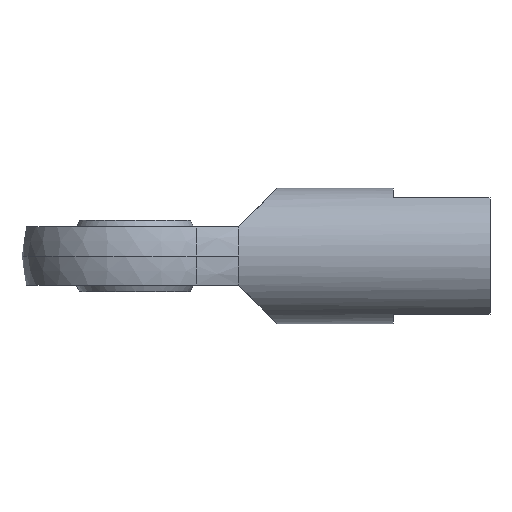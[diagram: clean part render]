
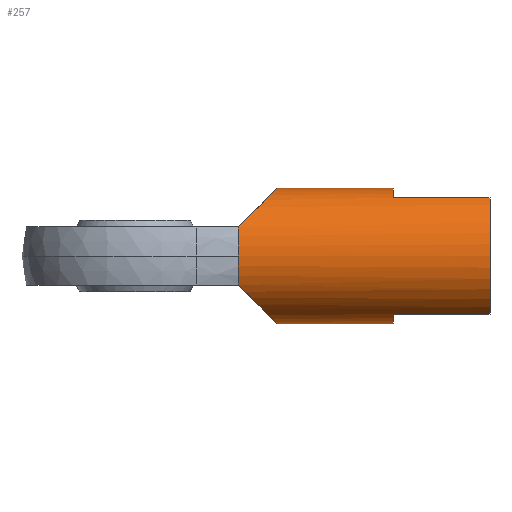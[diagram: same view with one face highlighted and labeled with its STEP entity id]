
A CAD part, front view. The second image highlights one B-rep face of the part: STEP entity #257.
In plain terms, the highlighted cylindrical face has radius 21 mm (diameter 42 mm), a partial arc.
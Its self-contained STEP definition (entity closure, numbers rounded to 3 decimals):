
#108 = VERTEX_POINT ( 'NONE', #519 ) ;
#118 = VERTEX_POINT ( 'NONE', #549 ) ;
#121 = EDGE_CURVE ( 'NONE', #118, #122, #543, .T. ) ;
#122 = VERTEX_POINT ( 'NONE', #539 ) ;
#133 = EDGE_CURVE ( 'NONE', #134, #135, #569, .T. ) ;
#134 = VERTEX_POINT ( 'NONE', #564 ) ;
#135 = VERTEX_POINT ( 'NONE', #563 ) ;
#166 = EDGE_CURVE ( 'NONE', #167, #108, #627, .T. ) ;
#167 = VERTEX_POINT ( 'NONE', #618 ) ;
#180 = EDGE_CURVE ( 'NONE', #262, #134, #643, .T. ) ;
#227 = ORIENTED_EDGE ( 'NONE', *, *, #228, .F. ) ;
#228 = EDGE_CURVE ( 'NONE', #229, #251, #733, .T. ) ;
#229 = VERTEX_POINT ( 'NONE', #777 ) ;
#230 = ORIENTED_EDGE ( 'NONE', *, *, #231, .F. ) ;
#231 = EDGE_CURVE ( 'NONE', #122, #229, #776, .T. ) ;
#239 = ORIENTED_EDGE ( 'NONE', *, *, #133, .T. ) ;
#240 = ORIENTED_EDGE ( 'NONE', *, *, #241, .F. ) ;
#241 = EDGE_CURVE ( 'NONE', #167, #135, #759, .T. ) ;
#242 = ORIENTED_EDGE ( 'NONE', *, *, #166, .T. ) ;
#243 = ORIENTED_EDGE ( 'NONE', *, *, #244, .F. ) ;
#244 = EDGE_CURVE ( 'NONE', #245, #108, #808, .T. ) ;
#245 = VERTEX_POINT ( 'NONE', #802 ) ;
#246 = ORIENTED_EDGE ( 'NONE', *, *, #247, .F. ) ;
#247 = EDGE_CURVE ( 'NONE', #248, #245, #801, .T. ) ;
#248 = VERTEX_POINT ( 'NONE', #797 ) ;
#249 = ORIENTED_EDGE ( 'NONE', *, *, #250, .F. ) ;
#250 = EDGE_CURVE ( 'NONE', #251, #248, #796, .T. ) ;
#251 = VERTEX_POINT ( 'NONE', #791 ) ;
#257 = ADVANCED_FACE ( 'NONE', ( #833 ), #832, .T. ) ;
#258 = EDGE_LOOP ( 'NONE', ( #259, #260, #263, #239, #240, #242, #243, #246, #249, #227, #230 ) ) ;
#259 = ORIENTED_EDGE ( 'NONE', *, *, #121, .F. ) ;
#260 = ORIENTED_EDGE ( 'NONE', *, *, #261, .F. ) ;
#261 = EDGE_CURVE ( 'NONE', #262, #118, #825, .T. ) ;
#262 = VERTEX_POINT ( 'NONE', #827 ) ;
#263 = ORIENTED_EDGE ( 'NONE', *, *, #180, .T. ) ;
#519 = CARTESIAN_POINT ( 'NONE',  ( 80., 0., -21. ) ) ;
#539 = CARTESIAN_POINT ( 'NONE',  ( 80., 0., 21. ) ) ;
#540 = DIRECTION ( 'NONE',  ( 1., 0., 0. ) ) ;
#541 = VECTOR ( 'NONE', #540, 1000. ) ;
#542 = CARTESIAN_POINT ( 'NONE',  ( 32., 0., 21. ) ) ;
#543 = LINE ( 'NONE', #542, #541 ) ;
#549 = CARTESIAN_POINT ( 'NONE',  ( 44., 0., 21. ) ) ;
#563 = CARTESIAN_POINT ( 'NONE',  ( 32., -18.974, -9. ) ) ;
#564 = CARTESIAN_POINT ( 'NONE',  ( 32., -21., 0. ) ) ;
#565 = DIRECTION ( 'NONE',  ( 0., 1., 0. ) ) ;
#566 = DIRECTION ( 'NONE',  ( 1., 0., 0. ) ) ;
#567 = CARTESIAN_POINT ( 'NONE',  ( 32., 0., 0. ) ) ;
#568 = AXIS2_PLACEMENT_3D ( 'NONE', #567, #566, #565 ) ;
#569 = CIRCLE ( 'NONE', #568, 21. ) ;
#618 = CARTESIAN_POINT ( 'NONE',  ( 44., 0., -21. ) ) ;
#619 = DIRECTION ( 'NONE',  ( 1., 0., 0. ) ) ;
#620 = VECTOR ( 'NONE', #619, 1000. ) ;
#621 = CARTESIAN_POINT ( 'NONE',  ( 32., 0., -21. ) ) ;
#627 = LINE ( 'NONE', #621, #620 ) ;
#643 = CIRCLE ( 'NONE', #700, 21. ) ;
#697 = DIRECTION ( 'NONE',  ( 0., 1., 0. ) ) ;
#698 = DIRECTION ( 'NONE',  ( 1., 0., 0. ) ) ;
#699 = CARTESIAN_POINT ( 'NONE',  ( 32., 0., 0. ) ) ;
#700 = AXIS2_PLACEMENT_3D ( 'NONE', #699, #698, #697 ) ;
#732 = CARTESIAN_POINT ( 'NONE',  ( 32., -10.817, 18. ) ) ;
#733 = LINE ( 'NONE', #732, #779 ) ;
#757 = CARTESIAN_POINT ( 'NONE',  ( 44., -8.345, -21. ) ) ;
#758 = CARTESIAN_POINT ( 'NONE',  ( 44., 0., -21. ) ) ;
#759 =( BOUNDED_CURVE ( )  B_SPLINE_CURVE ( 3, ( #758, #757, #810, #809 ),
 .UNSPECIFIED., .F., .T. ) 
 B_SPLINE_CURVE_WITH_KNOTS ( ( 4, 4 ),
 ( 0., 1.128 ),
 .UNSPECIFIED. ) 
 CURVE ( )  GEOMETRIC_REPRESENTATION_ITEM ( )  RATIONAL_B_SPLINE_CURVE ( ( 1., 0.897, 0.897, 1. ) ) 
 REPRESENTATION_ITEM ( '' )  );
#772 = DIRECTION ( 'NONE',  ( 0., 0., 1. ) ) ;
#773 = DIRECTION ( 'NONE',  ( 1., 0., 0. ) ) ;
#774 = CARTESIAN_POINT ( 'NONE',  ( 80., 0., 0. ) ) ;
#775 = AXIS2_PLACEMENT_3D ( 'NONE', #774, #773, #772 ) ;
#776 = CIRCLE ( 'NONE', #775, 21. ) ;
#777 = CARTESIAN_POINT ( 'NONE',  ( 80., -10.817, 18. ) ) ;
#778 = DIRECTION ( 'NONE',  ( 1., 0., 0. ) ) ;
#779 = VECTOR ( 'NONE', #778, 1000. ) ;
#791 = CARTESIAN_POINT ( 'NONE',  ( 110., -10.817, 18. ) ) ;
#792 = DIRECTION ( 'NONE',  ( 0., 0., -1. ) ) ;
#793 = DIRECTION ( 'NONE',  ( 1., 0., 0. ) ) ;
#794 = CARTESIAN_POINT ( 'NONE',  ( 110., 0., 0. ) ) ;
#795 = AXIS2_PLACEMENT_3D ( 'NONE', #794, #793, #792 ) ;
#796 = CIRCLE ( 'NONE', #795, 21. ) ;
#797 = CARTESIAN_POINT ( 'NONE',  ( 110., -10.817, -18. ) ) ;
#798 = DIRECTION ( 'NONE',  ( -1., 0., 0. ) ) ;
#799 = VECTOR ( 'NONE', #798, 1000. ) ;
#800 = CARTESIAN_POINT ( 'NONE',  ( 32., -10.817, -18. ) ) ;
#801 = LINE ( 'NONE', #800, #799 ) ;
#802 = CARTESIAN_POINT ( 'NONE',  ( 80., -10.817, -18. ) ) ;
#803 = DIRECTION ( 'NONE',  ( 0., 0., 1. ) ) ;
#804 = DIRECTION ( 'NONE',  ( 1., 0., 0. ) ) ;
#805 = CARTESIAN_POINT ( 'NONE',  ( 80., 0., 0. ) ) ;
#806 = AXIS2_PLACEMENT_3D ( 'NONE', #805, #804, #803 ) ;
#808 = CIRCLE ( 'NONE', #806, 21. ) ;
#809 = CARTESIAN_POINT ( 'NONE',  ( 32., -18.974, -9. ) ) ;
#810 = CARTESIAN_POINT ( 'NONE',  ( 39.54, -15.397, -16.54 ) ) ;
#821 = CARTESIAN_POINT ( 'NONE',  ( 44., 0., 21. ) ) ;
#822 = CARTESIAN_POINT ( 'NONE',  ( 44., -8.345, 21. ) ) ;
#823 = CARTESIAN_POINT ( 'NONE',  ( 39.54, -15.397, 16.54 ) ) ;
#824 = CARTESIAN_POINT ( 'NONE',  ( 32., -18.974, 9. ) ) ;
#825 =( BOUNDED_CURVE ( )  B_SPLINE_CURVE ( 3, ( #824, #823, #822, #821 ),
 .UNSPECIFIED., .F., .T. ) 
 B_SPLINE_CURVE_WITH_KNOTS ( ( 4, 4 ),
 ( 5.155, 6.283 ),
 .UNSPECIFIED. ) 
 CURVE ( )  GEOMETRIC_REPRESENTATION_ITEM ( )  RATIONAL_B_SPLINE_CURVE ( ( 1., 0.897, 0.897, 1. ) ) 
 REPRESENTATION_ITEM ( '' )  );
#827 = CARTESIAN_POINT ( 'NONE',  ( 32., -18.974, 9. ) ) ;
#828 = DIRECTION ( 'NONE',  ( 0., 0., -1. ) ) ;
#829 = DIRECTION ( 'NONE',  ( 1., 0., 0. ) ) ;
#830 = AXIS2_PLACEMENT_3D ( 'NONE', #831, #829, #828 ) ;
#831 = CARTESIAN_POINT ( 'NONE',  ( 32., 0., 0. ) ) ;
#832 = CYLINDRICAL_SURFACE ( 'NONE', #830, 21. ) ;
#833 = FACE_OUTER_BOUND ( 'NONE', #258, .T. ) ;
